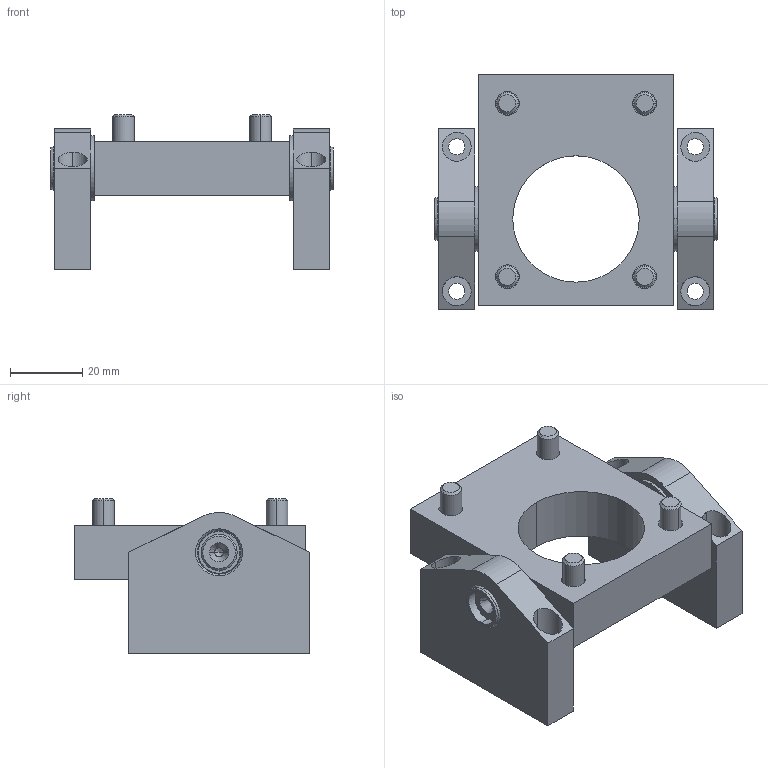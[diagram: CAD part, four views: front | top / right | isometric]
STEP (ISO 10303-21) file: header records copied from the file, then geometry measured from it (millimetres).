
FILE_DESCRIPTION (( 'STEP AP203' ), '1' );
FILE_NAME ('MJ0-KP(Z2)-SFK.STEP', '2024-01-05T11:14:46', ( '' ), ( '' ), 'SwSTEP 2.0', 'SolidWorks 2022', '' );
FILE_SCHEMA (( 'CONFIG_CONTROL_DESIGN' ));
Length unit declared in the file: millimetre
Products named in the file (1): MJ0-KP(Z2)-SFK
Bounding box: 78.15 x 65 x 42.9 mm (x, y, z)
Volume: 67901.3 mm3; surface area: 29605.8 mm2
Topology: 9 solids, 9 shells, 220 faces, 530 edges, 336 vertices
Faces by surface type: plane 80, cylinder 76, cone 40, torus 24
Entity records: 6497 total; most frequent: CARTESIAN_POINT 1225, DIRECTION 1152, ORIENTED_EDGE 1036, EDGE_CURVE 518, AXIS2_PLACEMENT_3D 461, VERTEX_POINT 336, EDGE_LOOP 262, CIRCLE 240
